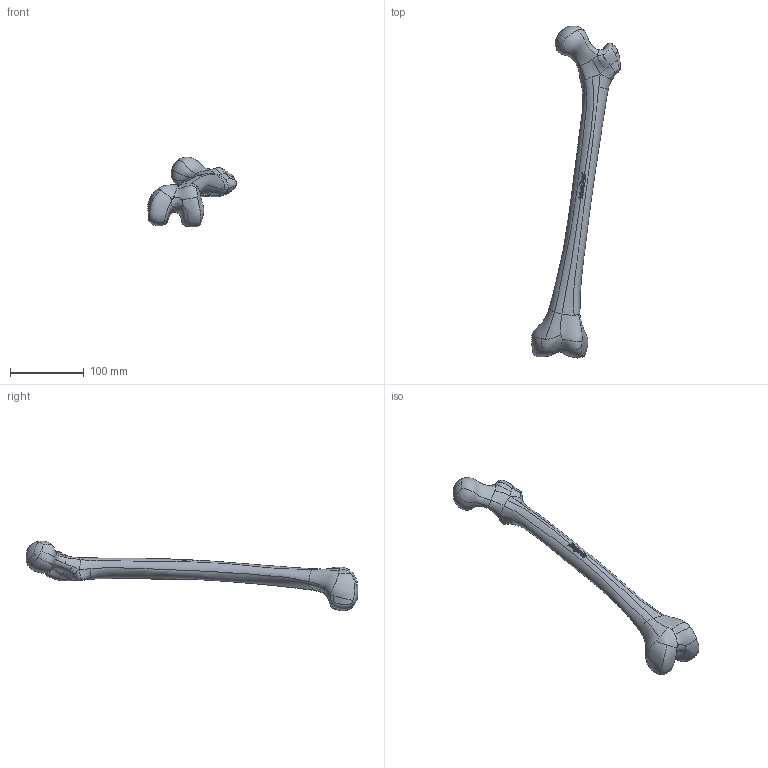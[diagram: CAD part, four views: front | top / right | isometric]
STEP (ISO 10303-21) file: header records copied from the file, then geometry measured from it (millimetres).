
FILE_DESCRIPTION (( 'STEP AP203' ), '1' );
FILE_NAME ('3503.STEP', '2025-06-12T17:16:04', ( '' ), ( '' ), 'SwSTEP 2.0', 'SolidWorks 2024', '' );
FILE_SCHEMA (( 'CONFIG_CONTROL_DESIGN' ));
Products named in the file (1): 3503
Bounding box: 120.55 x 450.02 x 94.8 mm (x, y, z)
Volume: 439914.2 mm3; surface area: 56273.9 mm2
Topology: 1 solids, 1 shells, 319 faces, 858 edges, 545 vertices
Faces by surface type: bspline 316, plane 3
Entity records: 347245 total; most frequent: CARTESIAN_POINT 341891, ORIENTED_EDGE 1716, B_SPLINE_CURVE_WITH_KNOTS 858, EDGE_CURVE 858, VERTEX_POINT 545, EDGE_LOOP 323, ADVANCED_FACE 319, FACE_OUTER_BOUND 319
